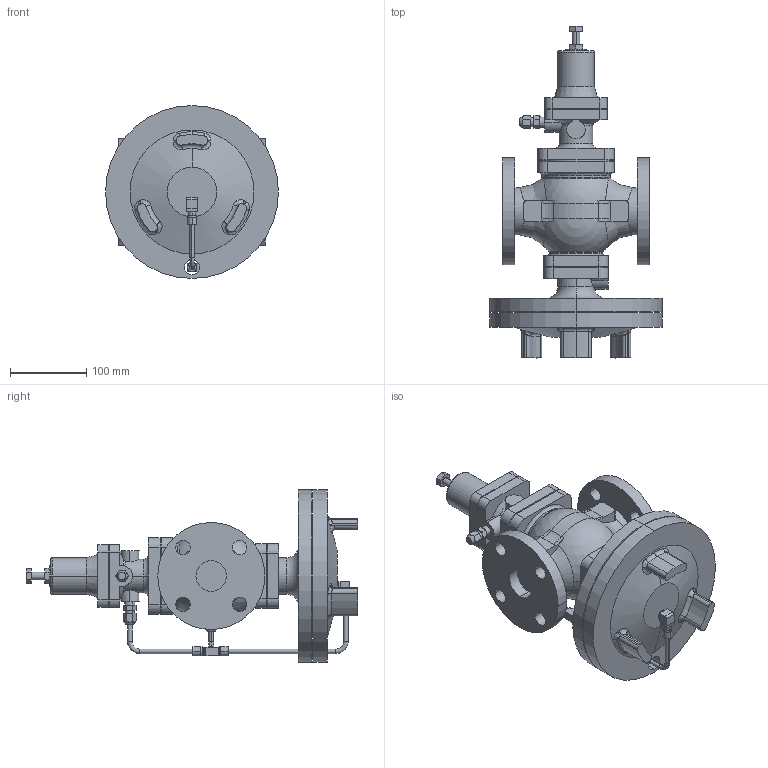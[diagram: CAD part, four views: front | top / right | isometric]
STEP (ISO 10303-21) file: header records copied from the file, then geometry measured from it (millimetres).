
FILE_DESCRIPTION (( 'STEP AP203' ), '1' );
FILE_NAME ('GPR-2000 JIS10K 40A.STEP', '2025-12-05T02:33:01', ( '' ), ( '' ), 'SwSTEP 2.0', 'SolidWorks 2024', '' );
FILE_SCHEMA (( 'CONFIG_CONTROL_DESIGN' ));
Length unit declared in the file: millimetre
Products named in the file (8): Tee; Pipe B 32-40A; GP-2000 Pipe A 32-40A; Pipe C 32-40A; GPR-2000 JIS10K 40A; Elbow; GPR-2000 Body Assy EN 40A; Joint
Assembly tree (9 placements, depth 2):
  GPR-2000 JIS10K 40A
    GPR-2000 Body Assy EN 40A
    Tee
    Pipe B 32-40A
    Joint  x3
    GP-2000 Pipe A 32-40A
    Pipe C 32-40A
    Elbow
Bounding box: 226 x 434 x 226 mm (x, y, z)
Volume: 4191369.2 mm3; surface area: 402975.7 mm2
Topology: 9 solids, 9 shells, 477 faces, 1200 edges, 783 vertices
Faces by surface type: plane 195, cylinder 187, torus 40, cone 27, bspline 24, sphere 4
Entity records: 17266 total; most frequent: CARTESIAN_POINT 6069, DIRECTION 2216, ORIENTED_EDGE 2116, EDGE_CURVE 1058, AXIS2_PLACEMENT_3D 876, VERTEX_POINT 683, EDGE_LOOP 495, LINE 464
